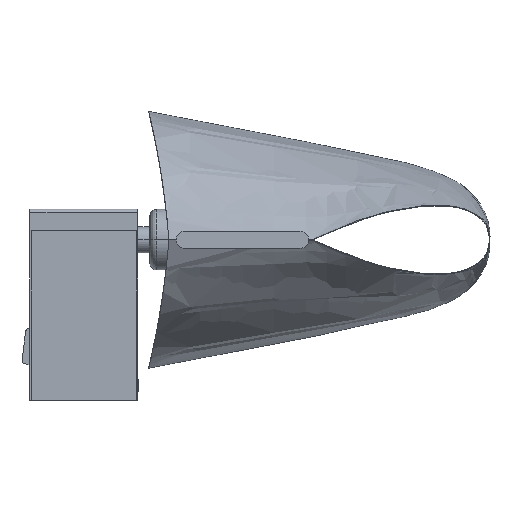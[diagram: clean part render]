
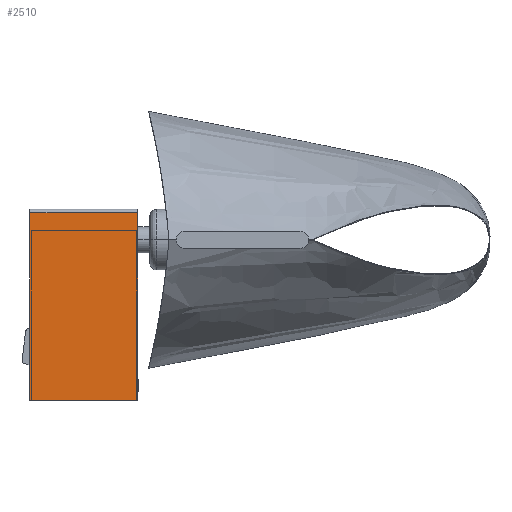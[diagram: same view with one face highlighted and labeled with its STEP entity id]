
A CAD part, left-side view. The second image highlights one B-rep face of the part: STEP entity #2510.
In plain terms, the highlighted planar face has unit normal (-1, 0, 0) as drawn and (0, 1, 0) by its records, which use the part's own axes.
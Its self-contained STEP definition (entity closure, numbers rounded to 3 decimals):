
#272=PLANE('',#2739);
#443=FACE_OUTER_BOUND('',#605,.T.);
#605=EDGE_LOOP('',(#2301,#2302,#2303,#2304));
#807=LINE('',#6764,#1014);
#808=LINE('',#6766,#1015);
#809=LINE('',#6768,#1016);
#810=LINE('',#6769,#1017);
#1014=VECTOR('',#3384,304.8);
#1015=VECTOR('',#3385,304.8);
#1016=VECTOR('',#3386,304.8);
#1017=VECTOR('',#3387,304.8);
#1290=VERTEX_POINT('',#6762);
#1291=VERTEX_POINT('',#6763);
#1292=VERTEX_POINT('',#6765);
#1293=VERTEX_POINT('',#6767);
#1639=EDGE_CURVE('',#1290,#1291,#807,.T.);
#1640=EDGE_CURVE('',#1292,#1290,#808,.T.);
#1641=EDGE_CURVE('',#1293,#1292,#809,.T.);
#1642=EDGE_CURVE('',#1291,#1293,#810,.T.);
#2301=ORIENTED_EDGE('',*,*,#1639,.F.);
#2302=ORIENTED_EDGE('',*,*,#1640,.F.);
#2303=ORIENTED_EDGE('',*,*,#1641,.F.);
#2304=ORIENTED_EDGE('',*,*,#1642,.F.);
#2510=ADVANCED_FACE('',(#443),#272,.T.);
#2739=AXIS2_PLACEMENT_3D('',#6761,#3382,#3383);
#3382=DIRECTION('center_axis',(0.,1.,0.));
#3383=DIRECTION('ref_axis',(-1.,0.,0.));
#3384=DIRECTION('',(0.,0.,1.));
#3385=DIRECTION('',(1.,0.,0.));
#3386=DIRECTION('',(0.,0.,-1.));
#3387=DIRECTION('',(-1.,0.,0.));
#6761=CARTESIAN_POINT('Origin',(37.5,15.,0.));
#6762=CARTESIAN_POINT('',(37.5,15.,0.));
#6763=CARTESIAN_POINT('',(37.5,15.,130.5));
#6764=CARTESIAN_POINT('',(37.5,15.,0.));
#6765=CARTESIAN_POINT('',(-37.5,15.,0.));
#6766=CARTESIAN_POINT('',(-37.5,15.,0.));
#6767=CARTESIAN_POINT('',(-37.5,15.,130.5));
#6768=CARTESIAN_POINT('',(-37.5,15.,130.5));
#6769=CARTESIAN_POINT('',(37.5,15.,130.5));
